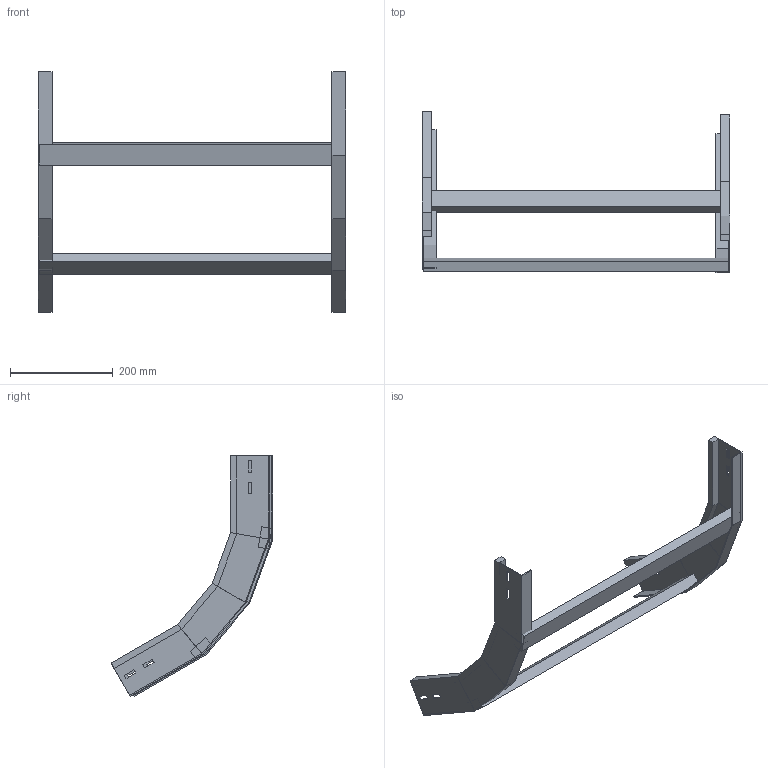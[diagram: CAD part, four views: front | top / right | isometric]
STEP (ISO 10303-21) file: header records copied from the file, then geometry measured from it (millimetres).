
FILE_DESCRIPTION (( 'STEP AP214' ), '1' );
FILE_NAME ('A2X40B3C600XX.step', '2025-04-02T09:31:48', ( '' ), ( '' ), 'SwSTEP 2.0', 'SolidWorks 2023', '' );
FILE_SCHEMA (( 'AUTOMOTIVE_DESIGN' ));
Length unit declared in the file: millimetre
Products named in the file (3): LONGH.SALITA_60°_H75_R300; TRAVERSINO_600; A2X40B3C600XX
Assembly tree (4 placements, depth 2):
  A2X40B3C600XX
    LONGH.SALITA_60°_H75_R300  x2
    TRAVERSINO_600  x2
Bounding box: 600 x 315.85 x 469.15 mm (x, y, z)
Volume: 1385106 mm3; surface area: 408703.6 mm2
Topology: 4 solids, 4 shells, 112 faces, 264 edges, 160 vertices
Faces by surface type: plane 112
Entity records: 1664 total; most frequent: CARTESIAN_POINT 275, ORIENTED_EDGE 264, DIRECTION 258, LINE 132, EDGE_CURVE 132, VECTOR 132, VERTEX_POINT 80, EDGE_LOOP 64
